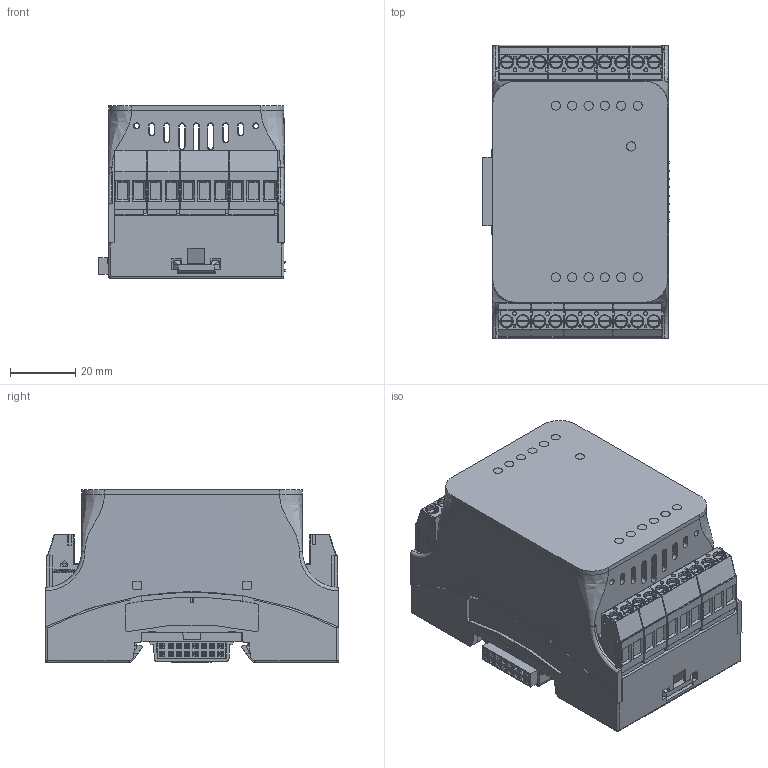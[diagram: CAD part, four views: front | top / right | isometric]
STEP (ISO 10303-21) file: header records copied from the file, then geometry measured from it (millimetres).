
FILE_DESCRIPTION(/* description */ (''),/* implementation_level */ '2;1');
FILE_NAME(/* name */ 'D:\WorkIMT\Project IMT\МВВ\v1\3D на сайт\12DO.stp',/* time_stamp */ '2026-06-09T08:43:35+03:00',/* author */ ('admin'),/* organization */ (''),/* preprocessor_version */ 'ST-DEVELOPER v17.2',/* originating_system */ 'Autodesk Inventor 2019',/* authorisation */ '');
FILE_SCHEMA (('AUTOMOTIVE_DESIGN { 1 0 10303 214 3 1 1 }'));
Products named in the file (1): MT.GARA-DIN.12DO.XX.XX 2
Bounding box: 57.13 x 89.74 x 52.89 mm (x, y, z)
Volume: 63867.8 mm3; surface area: 67694.3 mm2
Topology: 1 solids, 70 shells, 7612 faces, 20893 edges, 13472 vertices
Faces by surface type: plane 6381, cylinder 560, bspline 229, cone 220, torus 155, sphere 67
Full cylindrical faces by diameter (mm): 0.2 x4, 0.3 x1, 1.2 x18, 2.2 x8, 4.05 x20
Entity records: 262614 total; most frequent: CARTESIAN_POINT 63805, ORIENTED_EDGE 41648, DIRECTION 36946, EDGE_CURVE 20824, LINE 17270, VECTOR 17270, VERTEX_POINT 13472, AXIS2_PLACEMENT_3D 9838
